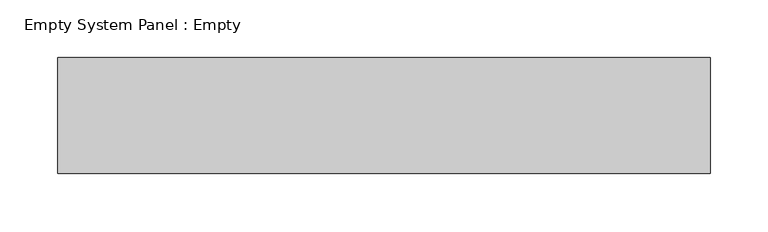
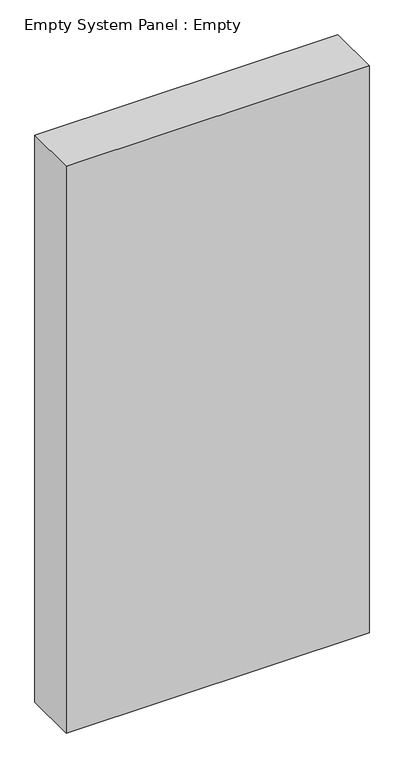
"""IFC4 building model written with IfcOpenShell, lengths in millimetres: plate geometry, Empty System Panel : Empty."""

from ifc_helpers import new_model, si_unit, origin, origin_with_axes, place, context, project, spatial, polyline, outline, extrude, source, transform, mapped, element, save


def empty_system_panel_empty_e38a5639(model_context):
    return source(origin(), model_context, "Body", "SweptSolid", [
        extrude(outline(polyline([(281.25, -50.0), (-281.25, -50.0), (-281.25, 50.0), (281.25, 50.0), (281.25, -50.0)])), origin_with_axes(), (0.0, 0.0, 1.0), 1112.5),
    ])


if __name__ == "__main__":
    model = new_model("IFC4")
    model_context = context("Model", 3, world=origin())
    ifc_project = project(units=[si_unit("LENGTHUNIT", "METRE", prefix="MILLI")], contexts=[model_context])
    site = spatial("IfcSite", under=ifc_project)
    building = spatial("IfcBuilding", under=site)
    placement = place(None, origin())
    empty_system_panel_empty_shape = empty_system_panel_empty_e38a5639(model_context)
    element("IfcPlate", 1, ObjectType="Empty System Panel : Empty", at=placement, inside=building, context=model_context, shape_type="MappedRepresentation", body=[
        mapped(empty_system_panel_empty_shape, transform((0.0, 0.0, 0.0), x_axis=(1.0, 0.0, 0.0), y_axis=(0.0, 1.0, 0.0), z_axis=(0.0, 0.0, 1.0))),
    ])
    save(model, "model.ifc")
